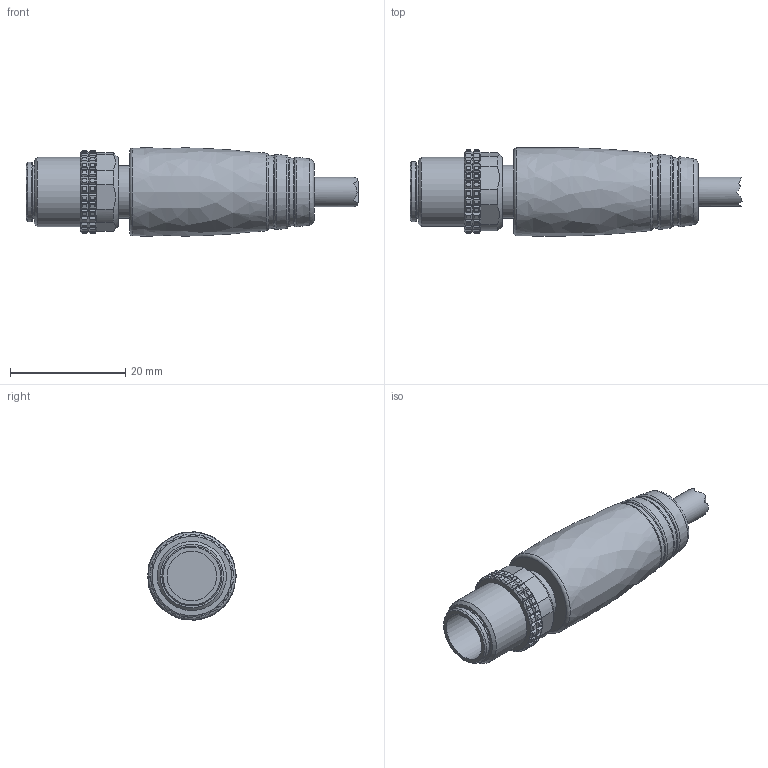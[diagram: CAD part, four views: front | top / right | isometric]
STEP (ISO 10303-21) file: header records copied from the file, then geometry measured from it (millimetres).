
FILE_DESCRIPTION((''),'2;1');
FILE_NAME('C:\Users\enrico\Desktop\Ale\Sito\AUTOMAZIONE_2020\FOTO & STEP Connettori circolari per sensori e attuatori\Singola testa\C12M8A2.stp','2020-06-29T09:57:07',('Tecnico2'),(''),'Autodesk Inventor 2012','Autodesk Inventor 2012','');
FILE_SCHEMA(('AUTOMOTIVE_DESIGN { 1 0 10303 214 1 1 1 1 }'));
Length unit declared in the file: millimetre
Products named in the file (3): C12M8A2; ghiera M12_MA_NON TECNICO
Assembly tree (2 placements, depth 2):
  C12M8A2
    C12M8A2
    ghiera M12_MA_NON TECNICO
Bounding box: 57.58 x 15.33 x 15.33 mm (x, y, z)
Volume: 6142.2 mm3; surface area: 4074.1 mm2
Topology: 2 solids, 2 shells, 1174 faces, 2686 edges, 1521 vertices
Faces by surface type: cylinder 516, plane 399, sphere 240, torus 10, bspline 5, cone 4
Full cylindrical faces by diameter (mm): 5.1 x1, 8.6 x1, 9.2 x1, 10 x1, 10.4 x1, 12 x1
Entity records: 32586 total; most frequent: DIRECTION 6268, CARTESIAN_POINT 5499, ORIENTED_EDGE 5318, EDGE_CURVE 2659, AXIS2_PLACEMENT_3D 2441, VERTEX_POINT 1519, VECTOR 1386, LINE 1386
